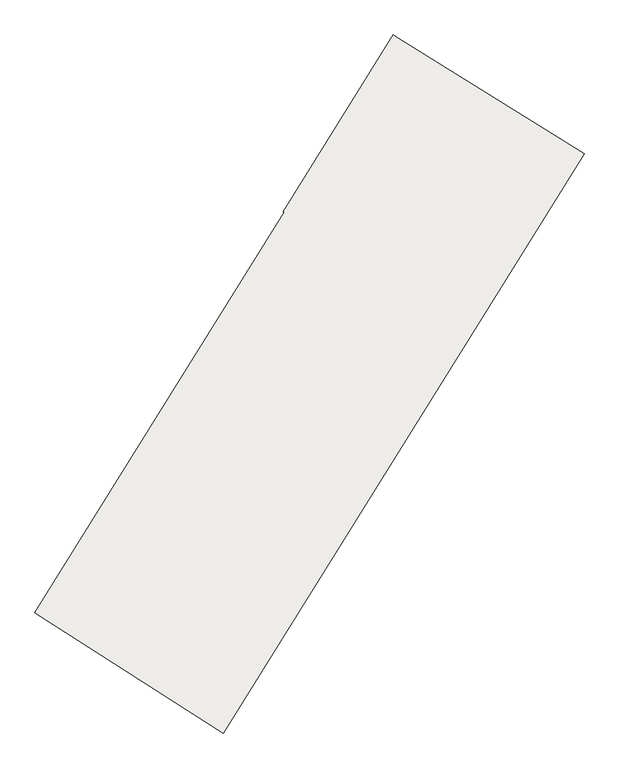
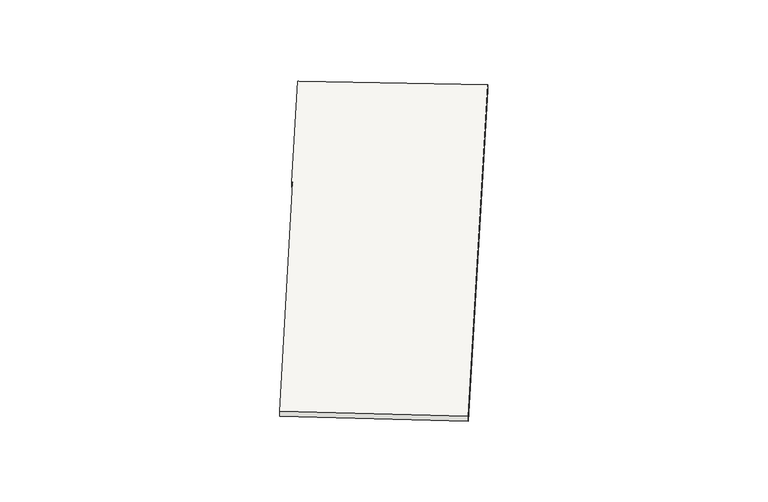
"""IFC4 building model written with IfcOpenShell, lengths in millimetres: slab geometry, Non-Monolitic_Landing."""

from ifc_helpers import new_model, si_unit, frame, origin, place, context, project, spatial, polyline, outline, extrude, source, transform, mapped, element, save


def slab_e200e813(model_context):
    return source(origin(), model_context, "Body", "SweptSolid", [
        extrude(outline(polyline([(15720.9034647, 7505.3752044), (17395.6995365, 10193.758014), (17387.2118388, 10199.0456399), (18126.2791976, 11385.3966328), (18134.7668953, 11380.1090068), (19407.9215461, 10586.9651137), (16984.7496723, 6697.2893975), (15720.9034647, 7505.3752044)])), frame((0.0, 0.0, 8933.8709677), z_axis=(0.0, 0.0, 1.0), x_axis=(1.0, 0.0, 0.0)), (0.0, 0.0, 1.0), 50.0),
    ])


if __name__ == "__main__":
    model = new_model("IFC4")
    model_context = context("Model", 3, world=origin())
    ifc_project = project(units=[si_unit("LENGTHUNIT", "METRE", prefix="MILLI")], contexts=[model_context])
    site = spatial("IfcSite", under=ifc_project)
    building = spatial("IfcBuilding", under=site)
    placement = place(None, origin())
    slab_shape = slab_e200e813(model_context)
    element("IfcSlab", 1, ObjectType="Non-Monolitic_Landing", at=placement, inside=building, context=model_context, shape_type="MappedRepresentation", body=[
        mapped(slab_shape, transform((0.0, 0.0, 0.0), x_axis=(1.0, 0.0, 0.0), y_axis=(0.0, 1.0, 0.0), z_axis=(0.0, 0.0, 1.0))),
    ])
    save(model, "model.ifc")
